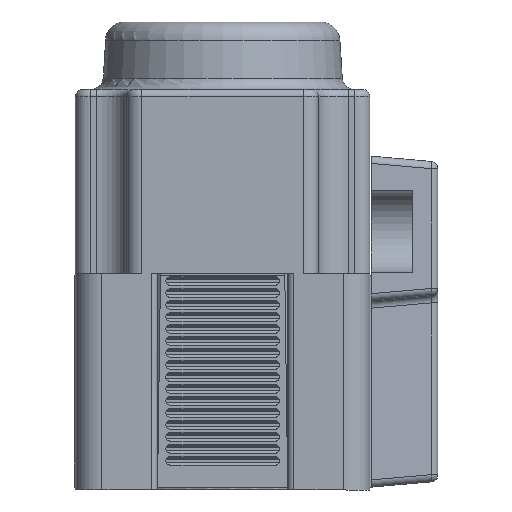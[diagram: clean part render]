
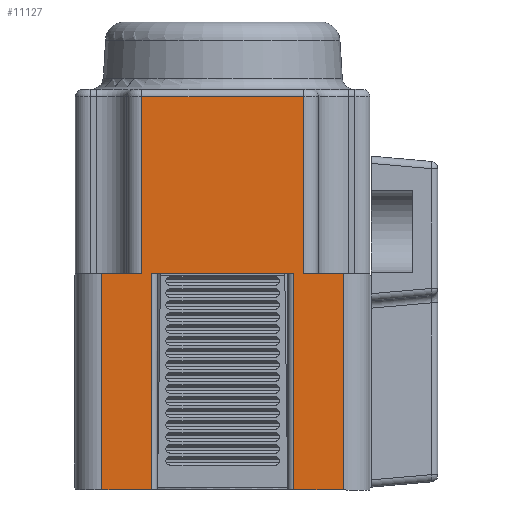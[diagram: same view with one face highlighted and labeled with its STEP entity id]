
A CAD part, left-side view. The second image highlights one B-rep face of the part: STEP entity #11127.
In plain terms, the highlighted planar face has unit normal (-1, 0, 0).
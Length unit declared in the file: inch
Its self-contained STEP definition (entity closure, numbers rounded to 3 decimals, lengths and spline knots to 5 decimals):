
#510=PLANE('',#12462);
#1101=FACE_OUTER_BOUND('',#1775,.T.);
#1775=EDGE_LOOP('',(#9522,#9523,#9524,#9525,#9526,#9527,#9528,#9529,#9530,
#9531,#9532,#9533));
#2606=LINE('',#18668,#3328);
#2619=LINE('',#18738,#3341);
#2742=LINE('',#20314,#3464);
#2759=LINE('',#20367,#3481);
#2760=LINE('',#20371,#3482);
#2763=LINE('',#20390,#3485);
#2776=LINE('',#20459,#3498);
#2777=LINE('',#20463,#3499);
#2778=LINE('',#20464,#3500);
#2779=LINE('',#20466,#3501);
#2780=LINE('',#20468,#3502);
#2781=LINE('',#20469,#3503);
#3328=VECTOR('',#15212,0.3937);
#3341=VECTOR('',#15295,0.3937);
#3464=VECTOR('',#15620,0.3937);
#3481=VECTOR('',#15683,0.3937);
#3482=VECTOR('',#15688,0.3937);
#3485=VECTOR('',#15709,0.3937);
#3498=VECTOR('',#15800,0.3937);
#3499=VECTOR('',#15805,0.3937);
#3500=VECTOR('',#15806,0.3937);
#3501=VECTOR('',#15807,0.3937);
#3502=VECTOR('',#15808,0.3937);
#3503=VECTOR('',#15809,0.3937);
#4777=VERTEX_POINT('',#18660);
#4779=VERTEX_POINT('',#18666);
#4801=VERTEX_POINT('',#18736);
#4937=VERTEX_POINT('',#20311);
#4938=VERTEX_POINT('',#20313);
#4951=VERTEX_POINT('',#20366);
#4952=VERTEX_POINT('',#20370);
#4959=VERTEX_POINT('',#20388);
#4976=VERTEX_POINT('',#20458);
#4977=VERTEX_POINT('',#20462);
#4978=VERTEX_POINT('',#20465);
#4979=VERTEX_POINT('',#20467);
#6196=EDGE_CURVE('',#4779,#4777,#2606,.T.);
#6232=EDGE_CURVE('',#4801,#4779,#2619,.T.);
#6441=EDGE_CURVE('',#4938,#4937,#2742,.T.);
#6468=EDGE_CURVE('',#4951,#4777,#2759,.T.);
#6470=EDGE_CURVE('',#4952,#4951,#2760,.T.);
#6480=EDGE_CURVE('',#4801,#4959,#2763,.T.);
#6514=EDGE_CURVE('',#4976,#4938,#2776,.T.);
#6516=EDGE_CURVE('',#4977,#4959,#2777,.T.);
#6517=EDGE_CURVE('',#4976,#4977,#2778,.T.);
#6518=EDGE_CURVE('',#4978,#4937,#2779,.T.);
#6519=EDGE_CURVE('',#4978,#4979,#2780,.T.);
#6520=EDGE_CURVE('',#4979,#4952,#2781,.T.);
#9522=ORIENTED_EDGE('',*,*,#6196,.F.);
#9523=ORIENTED_EDGE('',*,*,#6232,.F.);
#9524=ORIENTED_EDGE('',*,*,#6480,.T.);
#9525=ORIENTED_EDGE('',*,*,#6516,.F.);
#9526=ORIENTED_EDGE('',*,*,#6517,.F.);
#9527=ORIENTED_EDGE('',*,*,#6514,.T.);
#9528=ORIENTED_EDGE('',*,*,#6441,.T.);
#9529=ORIENTED_EDGE('',*,*,#6518,.F.);
#9530=ORIENTED_EDGE('',*,*,#6519,.T.);
#9531=ORIENTED_EDGE('',*,*,#6520,.T.);
#9532=ORIENTED_EDGE('',*,*,#6470,.T.);
#9533=ORIENTED_EDGE('',*,*,#6468,.T.);
#11127=ADVANCED_FACE('',(#1101),#510,.T.);
#12462=AXIS2_PLACEMENT_3D('',#20461,#15803,#15804);
#15212=DIRECTION('',(0.,-1.,0.));
#15295=DIRECTION('',(0.,0.,1.));
#15620=DIRECTION('',(0.,-1.,0.));
#15683=DIRECTION('',(0.,0.,1.));
#15688=DIRECTION('',(0.,1.,0.));
#15709=DIRECTION('',(0.,1.,0.));
#15800=DIRECTION('',(0.,0.,1.));
#15803=DIRECTION('center_axis',(-1.,0.,0.));
#15804=DIRECTION('ref_axis',(0.,0.,1.));
#15805=DIRECTION('',(0.,0.,1.));
#15806=DIRECTION('',(0.,1.,0.));
#15807=DIRECTION('',(0.,0.,1.));
#15808=DIRECTION('',(0.,-1.,0.));
#15809=DIRECTION('',(0.,0.,1.));
#18660=CARTESIAN_POINT('',(0.82724,-0.79216,0.65855));
#18666=CARTESIAN_POINT('',(0.82724,-0.12416,0.65855));
#18668=CARTESIAN_POINT('',(0.82724,-0.12416,0.65855));
#18736=CARTESIAN_POINT('',(0.82724,-0.12416,-0.07345));
#18738=CARTESIAN_POINT('',(0.82724,-0.12416,-0.07345));
#20311=CARTESIAN_POINT('',(0.82724,-0.75216,-0.07345));
#20313=CARTESIAN_POINT('',(0.82724,-0.16416,-0.07345));
#20314=CARTESIAN_POINT('',(0.82724,-0.16416,-0.07345));
#20366=CARTESIAN_POINT('',(0.82724,-0.79216,-0.07345));
#20367=CARTESIAN_POINT('',(0.82724,-0.79216,-0.07345));
#20370=CARTESIAN_POINT('',(0.82724,-0.95716,-0.07345));
#20371=CARTESIAN_POINT('',(0.82724,-0.95716,-0.07345));
#20388=CARTESIAN_POINT('',(0.82724,0.04084,-0.07345));
#20390=CARTESIAN_POINT('',(0.82724,-0.12416,-0.07345));
#20458=CARTESIAN_POINT('',(0.82724,-0.16416,-0.96745));
#20459=CARTESIAN_POINT('',(0.82724,-0.16416,-0.96745));
#20461=CARTESIAN_POINT('Origin',(0.82724,-0.95756,-0.15445));
#20462=CARTESIAN_POINT('',(0.82724,0.04084,-0.96745));
#20463=CARTESIAN_POINT('',(0.82724,0.04084,-0.96745));
#20464=CARTESIAN_POINT('',(0.82724,-0.16416,-0.96745));
#20465=CARTESIAN_POINT('',(0.82724,-0.75216,-0.96745));
#20466=CARTESIAN_POINT('',(0.82724,-0.75216,-0.96745));
#20467=CARTESIAN_POINT('',(0.82724,-0.95716,-0.96745));
#20468=CARTESIAN_POINT('',(0.82724,-0.75216,-0.96745));
#20469=CARTESIAN_POINT('',(0.82724,-0.95716,-0.96745));
